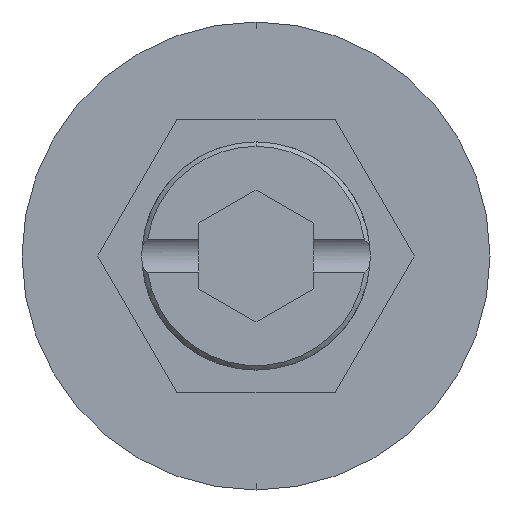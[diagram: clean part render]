
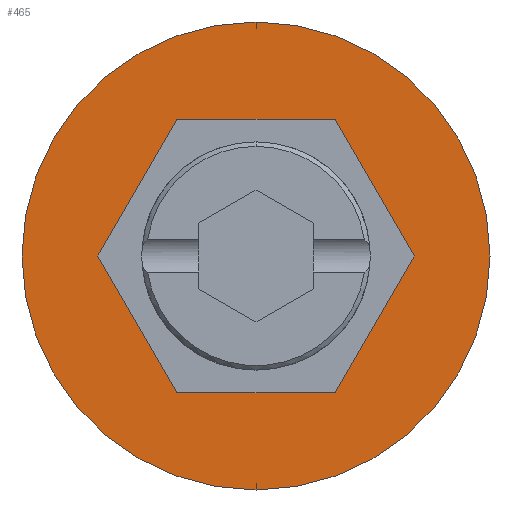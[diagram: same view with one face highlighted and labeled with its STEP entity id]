
A CAD part, front view. The second image highlights one B-rep face of the part: STEP entity #465.
In plain terms, the highlighted planar face has unit normal (0, -1, 0).
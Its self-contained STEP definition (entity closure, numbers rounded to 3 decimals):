
#35 = DIRECTION ( 'NONE',  ( 0., 0., -1. ) ) ;
#66 = ORIENTED_EDGE ( 'NONE', *, *, #1552, .F. ) ;
#75 = FACE_BOUND ( 'NONE', #1921, .T. ) ;
#78 = DIRECTION ( 'NONE',  ( 0., -1., 0. ) ) ;
#87 = DIRECTION ( 'NONE',  ( 1., 0., 0. ) ) ;
#120 = ORIENTED_EDGE ( 'NONE', *, *, #131, .F. ) ;
#131 = EDGE_CURVE ( 'NONE', #2009, #2095, #1102, .T. ) ;
#172 = VECTOR ( 'NONE', #1814, 1000. ) ;
#230 = CARTESIAN_POINT ( 'NONE',  ( -6.928, 0., 0. ) ) ;
#254 = VERTEX_POINT ( 'NONE', #230 ) ;
#325 = DIRECTION ( 'NONE',  ( 0., -1., 0. ) ) ;
#334 = DIRECTION ( 'NONE',  ( -0.5, 0., -0.866 ) ) ;
#407 = EDGE_CURVE ( 'NONE', #254, #2009, #1090, .T. ) ;
#443 = CARTESIAN_POINT ( 'NONE',  ( -3.464, 0., -6. ) ) ;
#451 = DIRECTION ( 'NONE',  ( -0.5, 0., 0.866 ) ) ;
#456 = ORIENTED_EDGE ( 'NONE', *, *, #945, .F. ) ;
#465 = ADVANCED_FACE ( 'NONE', ( #75, #514 ), #1579, .T. ) ;
#475 = ORIENTED_EDGE ( 'NONE', *, *, #858, .F. ) ;
#501 = CARTESIAN_POINT ( 'NONE',  ( 0., 0., 0. ) ) ;
#514 = FACE_OUTER_BOUND ( 'NONE', #742, .T. ) ;
#527 = CARTESIAN_POINT ( 'NONE',  ( 3.464, 0., 6. ) ) ;
#566 = LINE ( 'NONE', #1639, #2085 ) ;
#669 = DIRECTION ( 'NONE',  ( 0., 0., -1. ) ) ;
#682 = CARTESIAN_POINT ( 'NONE',  ( -3.464, 0., 6. ) ) ;
#692 = DIRECTION ( 'NONE',  ( 0., -1., 0. ) ) ;
#719 = VECTOR ( 'NONE', #1856, 1000. ) ;
#733 = DIRECTION ( 'NONE',  ( 0., 0., -1. ) ) ;
#739 = ORIENTED_EDGE ( 'NONE', *, *, #1038, .T. ) ;
#742 = EDGE_LOOP ( 'NONE', ( #2150, #739 ) ) ;
#785 = CIRCLE ( 'NONE', #969, 10.25 ) ;
#803 = CARTESIAN_POINT ( 'NONE',  ( -3.464, 0., -6. ) ) ;
#858 = EDGE_CURVE ( 'NONE', #1640, #1629, #566, .T. ) ;
#945 = EDGE_CURVE ( 'NONE', #1426, #254, #1108, .T. ) ;
#969 = AXIS2_PLACEMENT_3D ( 'NONE', #1537, #692, #35 ) ;
#993 = ORIENTED_EDGE ( 'NONE', *, *, #1452, .F. ) ;
#1026 = DIRECTION ( 'NONE',  ( -1., 0., 0. ) ) ;
#1038 = EDGE_CURVE ( 'NONE', #1115, #1514, #1624, .T. ) ;
#1079 = VECTOR ( 'NONE', #1026, 1000. ) ;
#1090 = LINE ( 'NONE', #1125, #172 ) ;
#1102 = LINE ( 'NONE', #443, #1284 ) ;
#1108 = LINE ( 'NONE', #682, #2144 ) ;
#1115 = VERTEX_POINT ( 'NONE', #2190 ) ;
#1125 = CARTESIAN_POINT ( 'NONE',  ( -6.928, 0., 0. ) ) ;
#1142 = EDGE_CURVE ( 'NONE', #1514, #1115, #785, .T. ) ;
#1284 = VECTOR ( 'NONE', #87, 1000. ) ;
#1404 = CARTESIAN_POINT ( 'NONE',  ( 0., 0., 0. ) ) ;
#1426 = VERTEX_POINT ( 'NONE', #2078 ) ;
#1441 = AXIS2_PLACEMENT_3D ( 'NONE', #1404, #78, #733 ) ;
#1452 = EDGE_CURVE ( 'NONE', #1629, #1426, #1635, .T. ) ;
#1514 = VERTEX_POINT ( 'NONE', #1550 ) ;
#1537 = CARTESIAN_POINT ( 'NONE',  ( 0., 0., 0. ) ) ;
#1550 = CARTESIAN_POINT ( 'NONE',  ( 0., 0., -10.25 ) ) ;
#1552 = EDGE_CURVE ( 'NONE', #2095, #1640, #1928, .T. ) ;
#1579 = PLANE ( 'NONE',  #1441 ) ;
#1624 = CIRCLE ( 'NONE', #2200, 10.25 ) ;
#1629 = VERTEX_POINT ( 'NONE', #1722 ) ;
#1635 = LINE ( 'NONE', #527, #1079 ) ;
#1639 = CARTESIAN_POINT ( 'NONE',  ( 6.928, 0., 0. ) ) ;
#1640 = VERTEX_POINT ( 'NONE', #2044 ) ;
#1647 = CARTESIAN_POINT ( 'NONE',  ( 3.464, 0., -6. ) ) ;
#1722 = CARTESIAN_POINT ( 'NONE',  ( 3.464, 0., 6. ) ) ;
#1736 = CARTESIAN_POINT ( 'NONE',  ( 3.464, 0., -6. ) ) ;
#1814 = DIRECTION ( 'NONE',  ( 0.5, 0., -0.866 ) ) ;
#1856 = DIRECTION ( 'NONE',  ( 0.5, 0., 0.866 ) ) ;
#1921 = EDGE_LOOP ( 'NONE', ( #120, #2153, #456, #993, #475, #66 ) ) ;
#1928 = LINE ( 'NONE', #1647, #719 ) ;
#2009 = VERTEX_POINT ( 'NONE', #803 ) ;
#2044 = CARTESIAN_POINT ( 'NONE',  ( 6.928, 0., 0. ) ) ;
#2078 = CARTESIAN_POINT ( 'NONE',  ( -3.464, 0., 6. ) ) ;
#2085 = VECTOR ( 'NONE', #451, 1000. ) ;
#2095 = VERTEX_POINT ( 'NONE', #1736 ) ;
#2144 = VECTOR ( 'NONE', #334, 1000. ) ;
#2150 = ORIENTED_EDGE ( 'NONE', *, *, #1142, .T. ) ;
#2153 = ORIENTED_EDGE ( 'NONE', *, *, #407, .F. ) ;
#2190 = CARTESIAN_POINT ( 'NONE',  ( 0., 0., 10.25 ) ) ;
#2200 = AXIS2_PLACEMENT_3D ( 'NONE', #501, #325, #669 ) ;
